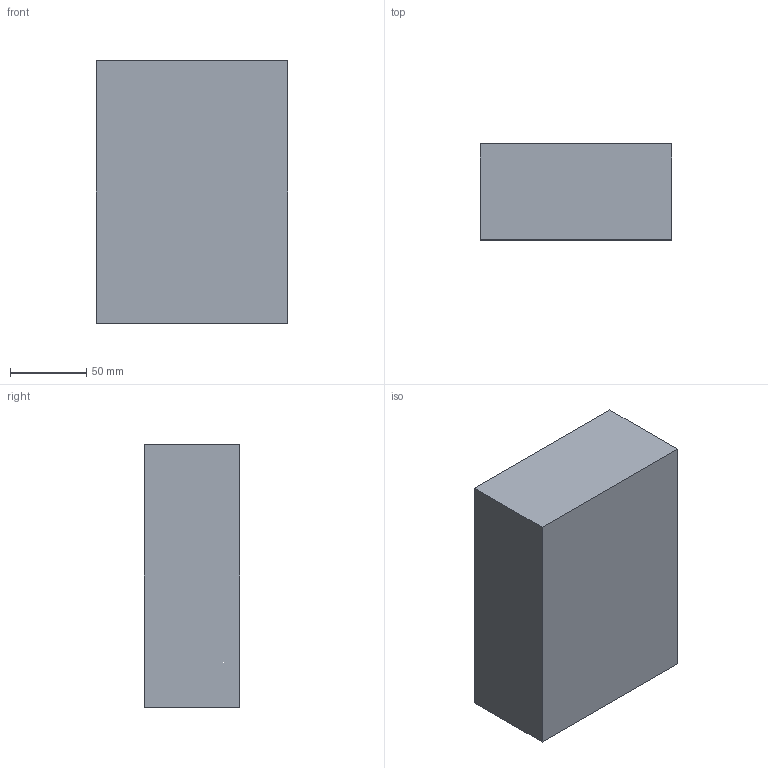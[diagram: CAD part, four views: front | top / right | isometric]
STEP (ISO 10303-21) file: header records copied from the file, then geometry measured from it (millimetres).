
FILE_DESCRIPTION(/* description */ ('STEP AP242 Edition 2','CAx-IF Rec.Pracs.---Representation and Presentation of Product Manufacturing Information (PMI)---4.0---2014-10-13','CAx-IF Rec.Pracs.---3D Tessellated Geometry---0.4---2014-09-14','2;1','CAx-IF Rec.Pracs.---User Defined Attributes---1.5---2016-08-15'),/* implementation_level */ '2;1');
FILE_NAME(/* name */ 'Assy_ForMFG - Battery_Inside',/* time_stamp */ '2026-05-15T19:56:08Z',/* author */ (''),/* organization */ (''),/* preprocessor_version */ 'ST-DEVELOPER v20',/* originating_system */ 'ONSHAPE BY PTC INC, 1.215',/* authorisation */ ' ');
FILE_SCHEMA (('AP242_MANAGED_MODEL_BASED_3D_ENGINEERING_MIM_LF { 1 0 10303 442 3 1 4 }'));
Length unit declared in the file: metre
Products named in the file (1): Battery_Inside
Bounding box: 126 x 63 x 173 mm (x, y, z)
Volume: 1373274 mm3; surface area: 81270 mm2
Topology: 1 solids, 1 shells, 6 faces, 12 edges, 8 vertices
Faces by surface type: plane 6
Entity records: 178 total; most frequent: CARTESIAN_POINT 27, DIRECTION 26, ORIENTED_EDGE 24, EDGE_CURVE 12, LINE 12, VECTOR 12, VERTEX_POINT 8, AXIS2_PLACEMENT_3D 7
